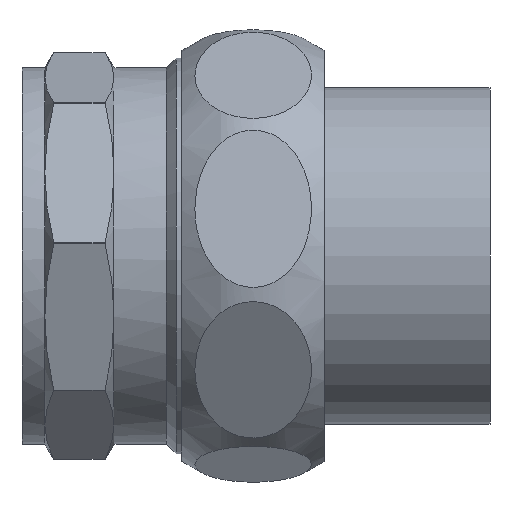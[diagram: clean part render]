
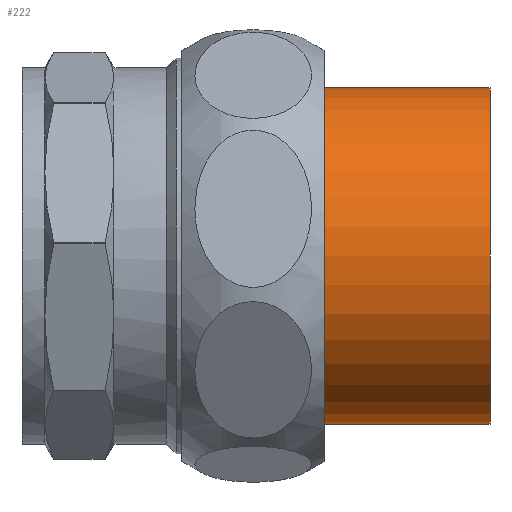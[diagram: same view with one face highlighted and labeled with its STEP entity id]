
A CAD part, front view. The second image highlights one B-rep face of the part: STEP entity #222.
In plain terms, the highlighted cylindrical face has radius 29.5 mm (diameter 59 mm), a full revolution.
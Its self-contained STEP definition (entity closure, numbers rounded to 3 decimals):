
#171=CARTESIAN_POINT('',(4.625,29.5,0.));
#172=VERTEX_POINT('',#171);
#173=CARTESIAN_POINT('',(4.625,0.0,0.0));
#174=DIRECTION('',(-1.0,0.0,0.0));
#175=DIRECTION('',(0.0,-1.0,0.0));
#176=AXIS2_PLACEMENT_3D('',#173,#174,#175);
#177=CIRCLE('',#176,29.5);
#178=EDGE_CURVE('',#172,#172,#177,.T.);
#203=CARTESIAN_POINT('',(21.125,0.0,0.0));
#204=DIRECTION('',(1.0,0.0,0.0));
#205=DIRECTION('',(0.0,1.0,0.0));
#206=AXIS2_PLACEMENT_3D('',#203,#204,#205);
#207=CYLINDRICAL_SURFACE('',#206,29.5);
#208=CARTESIAN_POINT('',(38.125,29.5,0.0));
#209=VERTEX_POINT('',#208);
#210=CARTESIAN_POINT('',(38.125,0.0,0.0));
#211=DIRECTION('',(1.0,0.0,0.0));
#212=DIRECTION('',(0.0,1.0,0.0));
#213=AXIS2_PLACEMENT_3D('',#210,#211,#212);
#214=CIRCLE('',#213,29.5);
#215=EDGE_CURVE('',#209,#209,#214,.T.);
#216=ORIENTED_EDGE('',*,*,#215,.F.);
#217=EDGE_LOOP('',(#216));
#218=FACE_OUTER_BOUND('',#217,.T.);
#219=ORIENTED_EDGE('',*,*,#178,.F.);
#220=EDGE_LOOP('',(#219));
#221=FACE_BOUND('',#220,.T.);
#222=ADVANCED_FACE('',(#218,#221),#207,.T.);
